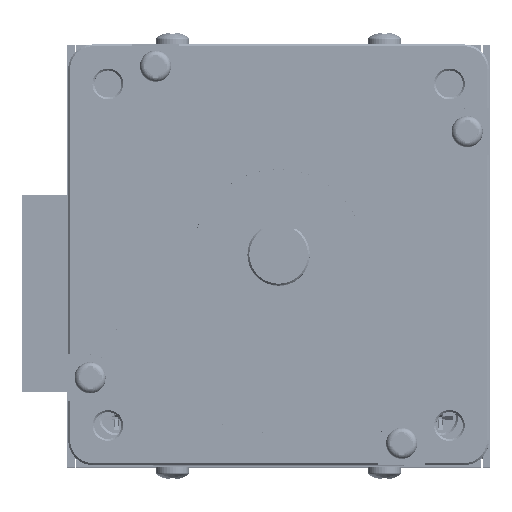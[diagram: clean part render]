
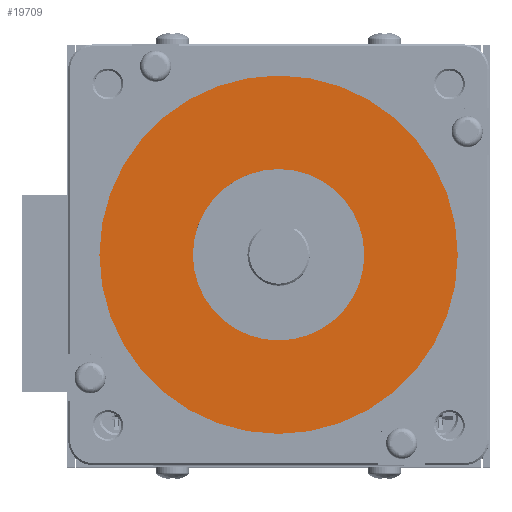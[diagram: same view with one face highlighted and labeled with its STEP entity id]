
A CAD part, top view. The second image highlights one B-rep face of the part: STEP entity #19709.
In plain terms, the highlighted planar face has unit normal (0, 0, 1).
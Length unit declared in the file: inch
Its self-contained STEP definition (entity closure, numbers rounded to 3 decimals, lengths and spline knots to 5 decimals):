
#5 = CARTESIAN_POINT ( 'NONE',  ( 0., 0., 0.06 ) ) ;
#8463 = VERTEX_POINT ( 'NONE', #152827 ) ;
#14673 = DIRECTION ( 'NONE',  ( 1., 0., 0. ) ) ;
#15049 = AXIS2_PLACEMENT_3D ( 'NONE', #56822, #159246, #71561 ) ;
#15599 = AXIS2_PLACEMENT_3D ( 'NONE', #5, #102384, #14673 ) ;
#19051 = DIRECTION ( 'NONE',  ( 0., 0., 1. ) ) ;
#19343 = ORIENTED_EDGE ( 'NONE', *, *, #33246, .T. ) ;
#19709 = ADVANCED_FACE ( 'NONE', ( #77728, #116650 ), #138765, .T. ) ;
#19976 = CIRCLE ( 'NONE', #129438, 0.6875 ) ;
#21670 = CIRCLE ( 'NONE', #15599, 0.6875 ) ;
#22263 = CARTESIAN_POINT ( 'NONE',  ( 0., 0., 0.06 ) ) ;
#27727 = CIRCLE ( 'NONE', #15049, 1.4375 ) ;
#27953 = DIRECTION ( 'NONE',  ( 0., 0., 1. ) ) ;
#33246 = EDGE_CURVE ( 'NONE', #8463, #161590, #27727, .T. ) ;
#37010 = DIRECTION ( 'NONE',  ( 1., 0., 0. ) ) ;
#45083 = CIRCLE ( 'NONE', #135438, 1.4375 ) ;
#56822 = CARTESIAN_POINT ( 'NONE',  ( 0., 0., 0.06 ) ) ;
#66841 = CARTESIAN_POINT ( 'NONE',  ( 1.4375, 0., 0.06 ) ) ;
#71561 = DIRECTION ( 'NONE',  ( 1., 0., 0. ) ) ;
#77728 = FACE_OUTER_BOUND ( 'NONE', #96942, .T. ) ;
#81893 = CARTESIAN_POINT ( 'NONE',  ( 0.6875, 0., 0.06 ) ) ;
#83585 = ORIENTED_EDGE ( 'NONE', *, *, #107111, .F. ) ;
#95973 = VERTEX_POINT ( 'NONE', #169010 ) ;
#96942 = EDGE_LOOP ( 'NONE', ( #19343, #186241 ) ) ;
#102384 = DIRECTION ( 'NONE',  ( 0., 0., 1. ) ) ;
#106075 = EDGE_CURVE ( 'NONE', #137078, #95973, #19976, .T. ) ;
#106753 = CARTESIAN_POINT ( 'NONE',  ( 0., 0., 0.06 ) ) ;
#107111 = EDGE_CURVE ( 'NONE', #95973, #137078, #21670, .T. ) ;
#110717 = EDGE_LOOP ( 'NONE', ( #83585, #122221 ) ) ;
#115708 = CARTESIAN_POINT ( 'NONE',  ( 0., 0., 0.06 ) ) ;
#116650 = FACE_BOUND ( 'NONE', #110717, .T. ) ;
#121433 = DIRECTION ( 'NONE',  ( 1., 0., 0. ) ) ;
#122221 = ORIENTED_EDGE ( 'NONE', *, *, #106075, .F. ) ;
#124661 = DIRECTION ( 'NONE',  ( 0., 0., 1. ) ) ;
#127036 = AXIS2_PLACEMENT_3D ( 'NONE', #22263, #124661, #37010 ) ;
#129438 = AXIS2_PLACEMENT_3D ( 'NONE', #115708, #27953, #130385 ) ;
#130385 = DIRECTION ( 'NONE',  ( 1., 0., 0. ) ) ;
#135438 = AXIS2_PLACEMENT_3D ( 'NONE', #106753, #19051, #121433 ) ;
#137078 = VERTEX_POINT ( 'NONE', #81893 ) ;
#138765 = PLANE ( 'NONE',  #127036 ) ;
#152827 = CARTESIAN_POINT ( 'NONE',  ( -1.4375, 0., 0.06 ) ) ;
#159246 = DIRECTION ( 'NONE',  ( 0., 0., 1. ) ) ;
#161590 = VERTEX_POINT ( 'NONE', #66841 ) ;
#169010 = CARTESIAN_POINT ( 'NONE',  ( -0.6875, 0., 0.06 ) ) ;
#174653 = EDGE_CURVE ( 'NONE', #161590, #8463, #45083, .T. ) ;
#186241 = ORIENTED_EDGE ( 'NONE', *, *, #174653, .T. ) ;
